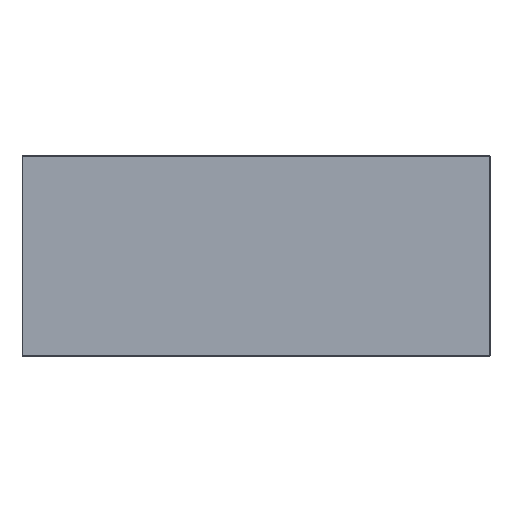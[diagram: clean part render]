
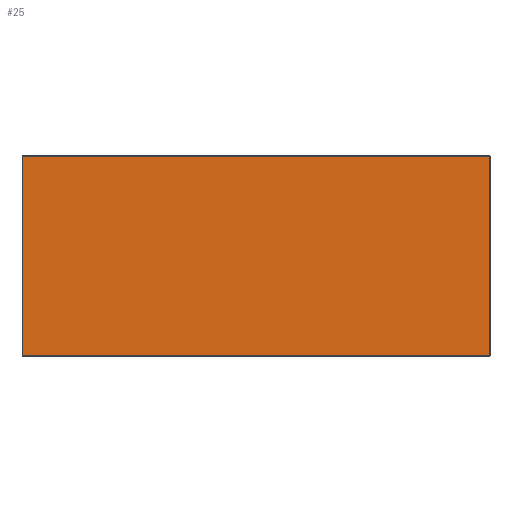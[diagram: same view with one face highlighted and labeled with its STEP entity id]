
A CAD part, top view. The second image highlights one B-rep face of the part: STEP entity #25.
In plain terms, the highlighted planar face has unit normal (0, 0, 1).
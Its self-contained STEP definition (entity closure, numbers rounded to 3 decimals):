
#25=ADVANCED_FACE('',(#319),#3490,.T.);
#319=FACE_OUTER_BOUND('',#613,.T.);
#613=EDGE_LOOP('',(#987,#988,#989,#990));
#987=ORIENTED_EDGE('',*,*,#2107,.T.);
#988=ORIENTED_EDGE('',*,*,#2109,.T.);
#989=ORIENTED_EDGE('',*,*,#2110,.T.);
#990=ORIENTED_EDGE('',*,*,#2108,.T.);
#2107=EDGE_CURVE('',#3265,#3266,#3126,.T.);
#2108=EDGE_CURVE('',#3267,#3265,#3127,.T.);
#2109=EDGE_CURVE('',#3266,#3268,#3128,.T.);
#2110=EDGE_CURVE('',#3268,#3267,#3129,.T.);
#3126=B_SPLINE_CURVE_WITH_KNOTS('',1,(#9060,#9061),.UNSPECIFIED.,.F.,.F.,
(2,2),(1.,699.),.UNSPECIFIED.);
#3127=B_SPLINE_CURVE_WITH_KNOTS('',1,(#9062,#9063),.UNSPECIFIED.,.F.,.F.,
(2,2),(1.,299.),.UNSPECIFIED.);
#3128=B_SPLINE_CURVE_WITH_KNOTS('',1,(#9064,#9065),.UNSPECIFIED.,.F.,.F.,
(2,2),(1.,299.),.UNSPECIFIED.);
#3129=B_SPLINE_CURVE_WITH_KNOTS('',1,(#9066,#9067),.UNSPECIFIED.,.F.,.F.,
(2,2),(1.,699.),.UNSPECIFIED.);
#3265=VERTEX_POINT('',#8488);
#3266=VERTEX_POINT('',#8489);
#3267=VERTEX_POINT('',#8490);
#3268=VERTEX_POINT('',#8491);
#3490=PLANE('',#3804);
#3804=AXIS2_PLACEMENT_3D('',#3890,#3822,$);
#3822=DIRECTION('',(0.,0.,1.));
#3890=CARTESIAN_POINT('',(-3311.247,-1697.605,420.));
#8488=CARTESIAN_POINT('',(-3310.247,-1696.605,420.));
#8489=CARTESIAN_POINT('',(-2612.247,-1696.605,420.));
#8490=CARTESIAN_POINT('',(-3310.247,-1398.605,420.));
#8491=CARTESIAN_POINT('',(-2612.247,-1398.605,420.));
#9060=CARTESIAN_POINT('',(-3310.247,-1696.605,420.));
#9061=CARTESIAN_POINT('',(-2612.247,-1696.605,420.));
#9062=CARTESIAN_POINT('',(-3310.247,-1398.605,420.));
#9063=CARTESIAN_POINT('',(-3310.247,-1696.605,420.));
#9064=CARTESIAN_POINT('',(-2612.247,-1696.605,420.));
#9065=CARTESIAN_POINT('',(-2612.247,-1398.605,420.));
#9066=CARTESIAN_POINT('',(-2612.247,-1398.605,420.));
#9067=CARTESIAN_POINT('',(-3310.247,-1398.605,420.));
